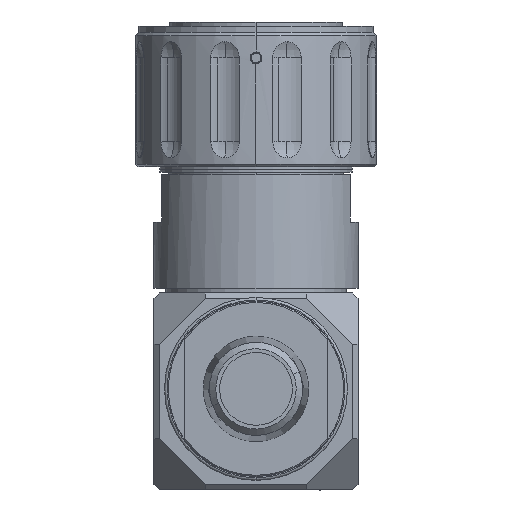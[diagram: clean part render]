
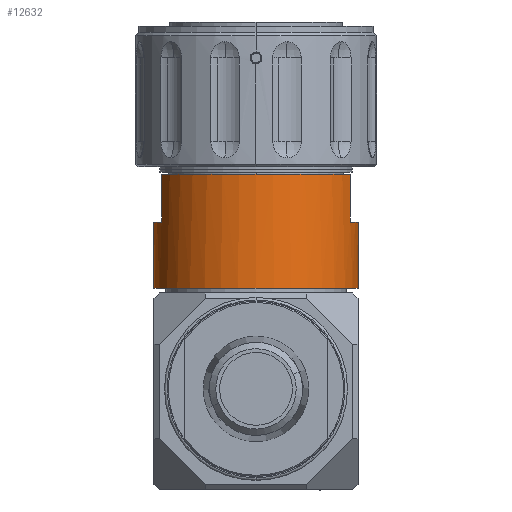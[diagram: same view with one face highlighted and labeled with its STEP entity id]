
A CAD part, front view. The second image highlights one B-rep face of the part: STEP entity #12632.
In plain terms, the highlighted cylindrical face has radius 20.447 mm (diameter 40.894 mm), a partial arc.
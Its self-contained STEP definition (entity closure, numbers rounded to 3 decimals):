
#65 = CARTESIAN_POINT ( 'NONE',  ( 18.796, -8.049, -30.328 ) ) ;
#496 = CARTESIAN_POINT ( 'NONE',  ( 0., 0., -30.328 ) ) ;
#1425 = VERTEX_POINT ( 'NONE', #8527 ) ;
#1447 = CYLINDRICAL_SURFACE ( 'NONE', #6996, 20.447 ) ;
#1982 = VERTEX_POINT ( 'NONE', #10337 ) ;
#2183 = CIRCLE ( 'NONE', #8501, 20.447 ) ;
#2210 = LINE ( 'NONE', #65, #9913 ) ;
#2232 = CIRCLE ( 'NONE', #11967, 20.447 ) ;
#2316 = VECTOR ( 'NONE', #9160, 1000. ) ;
#2331 = VERTEX_POINT ( 'NONE', #7808 ) ;
#2366 = CARTESIAN_POINT ( 'NONE',  ( 20.447, 0., -39.853 ) ) ;
#2547 = DIRECTION ( 'NONE',  ( 0., 0., -1. ) ) ;
#2822 = EDGE_CURVE ( 'NONE', #2331, #1982, #8724, .T. ) ;
#2977 = CARTESIAN_POINT ( 'NONE',  ( 0., 0., -39.853 ) ) ;
#3019 = DIRECTION ( 'NONE',  ( 0., 0., -1. ) ) ;
#3074 = CARTESIAN_POINT ( 'NONE',  ( -20.447, 0., -39.853 ) ) ;
#3502 = VERTEX_POINT ( 'NONE', #6114 ) ;
#3522 = ORIENTED_EDGE ( 'NONE', *, *, #10262, .T. ) ;
#3613 = CARTESIAN_POINT ( 'NONE',  ( 20.447, 0., -30.328 ) ) ;
#3876 = ORIENTED_EDGE ( 'NONE', *, *, #5257, .F. ) ;
#4098 = VERTEX_POINT ( 'NONE', #8161 ) ;
#4106 = ORIENTED_EDGE ( 'NONE', *, *, #2822, .T. ) ;
#4163 = DIRECTION ( 'NONE',  ( 0., 0., -1. ) ) ;
#4473 = EDGE_CURVE ( 'NONE', #1425, #3502, #11893, .T. ) ;
#4754 = ORIENTED_EDGE ( 'NONE', *, *, #7765, .F. ) ;
#4839 = LINE ( 'NONE', #12161, #2316 ) ;
#5008 = VECTOR ( 'NONE', #4163, 1000. ) ;
#5257 = EDGE_CURVE ( 'NONE', #4098, #12522, #2183, .T. ) ;
#5624 = ORIENTED_EDGE ( 'NONE', *, *, #12619, .F. ) ;
#5969 = CARTESIAN_POINT ( 'NONE',  ( 0., 0., -39.853 ) ) ;
#6114 = CARTESIAN_POINT ( 'NONE',  ( -20.447, 0., -53.01 ) ) ;
#6463 = AXIS2_PLACEMENT_3D ( 'NONE', #14052, #6742, #13046 ) ;
#6559 = CARTESIAN_POINT ( 'NONE',  ( -18.796, -8.049, -39.853 ) ) ;
#6644 = VERTEX_POINT ( 'NONE', #3074 ) ;
#6682 = VERTEX_POINT ( 'NONE', #6559 ) ;
#6742 = DIRECTION ( 'NONE',  ( 0., 0., -1. ) ) ;
#6996 = AXIS2_PLACEMENT_3D ( 'NONE', #496, #13502, #12491 ) ;
#7152 = ORIENTED_EDGE ( 'NONE', *, *, #7317, .F. ) ;
#7317 = EDGE_CURVE ( 'NONE', #12522, #1425, #11188, .T. ) ;
#7486 = CARTESIAN_POINT ( 'NONE',  ( 0., 0., -53.01 ) ) ;
#7765 = EDGE_CURVE ( 'NONE', #2331, #4098, #2210, .T. ) ;
#7808 = CARTESIAN_POINT ( 'NONE',  ( 18.796, -8.049, -30.328 ) ) ;
#8161 = CARTESIAN_POINT ( 'NONE',  ( 18.796, -8.049, -39.853 ) ) ;
#8291 = DIRECTION ( 'NONE',  ( 0., 0., 1. ) ) ;
#8412 = LINE ( 'NONE', #11684, #5008 ) ;
#8415 = ORIENTED_EDGE ( 'NONE', *, *, #9737, .F. ) ;
#8501 = AXIS2_PLACEMENT_3D ( 'NONE', #2977, #8291, #10687 ) ;
#8527 = CARTESIAN_POINT ( 'NONE',  ( 20.447, 0., -53.01 ) ) ;
#8724 = CIRCLE ( 'NONE', #6463, 20.447 ) ;
#9015 = VECTOR ( 'NONE', #2547, 1000. ) ;
#9152 = FACE_OUTER_BOUND ( 'NONE', #11696, .T. ) ;
#9160 = DIRECTION ( 'NONE',  ( 0., 0., 1. ) ) ;
#9737 = EDGE_CURVE ( 'NONE', #6682, #1982, #4839, .T. ) ;
#9775 = DIRECTION ( 'NONE',  ( 0., 0., -1. ) ) ;
#9913 = VECTOR ( 'NONE', #9775, 1000. ) ;
#10076 = DIRECTION ( 'NONE',  ( 0., 0., 1. ) ) ;
#10262 = EDGE_CURVE ( 'NONE', #6644, #3502, #8412, .T. ) ;
#10337 = CARTESIAN_POINT ( 'NONE',  ( -18.796, -8.049, -30.328 ) ) ;
#10687 = DIRECTION ( 'NONE',  ( 1., 0., 0. ) ) ;
#10727 = ORIENTED_EDGE ( 'NONE', *, *, #4473, .F. ) ;
#10988 = AXIS2_PLACEMENT_3D ( 'NONE', #7486, #3019, #11805 ) ;
#11188 = LINE ( 'NONE', #3613, #9015 ) ;
#11684 = CARTESIAN_POINT ( 'NONE',  ( -20.447, 0., -30.328 ) ) ;
#11696 = EDGE_LOOP ( 'NONE', ( #5624, #3522, #10727, #7152, #3876, #4754, #4106, #8415 ) ) ;
#11805 = DIRECTION ( 'NONE',  ( 1., 0., 0. ) ) ;
#11893 = CIRCLE ( 'NONE', #10988, 20.447 ) ;
#11967 = AXIS2_PLACEMENT_3D ( 'NONE', #5969, #10076, #13570 ) ;
#12161 = CARTESIAN_POINT ( 'NONE',  ( -18.796, -8.049, -30.328 ) ) ;
#12491 = DIRECTION ( 'NONE',  ( 1., 0., 0. ) ) ;
#12522 = VERTEX_POINT ( 'NONE', #2366 ) ;
#12619 = EDGE_CURVE ( 'NONE', #6644, #6682, #2232, .T. ) ;
#12632 = ADVANCED_FACE ( 'NONE', ( #9152 ), #1447, .T. ) ;
#13046 = DIRECTION ( 'NONE',  ( 1., 0., 0. ) ) ;
#13502 = DIRECTION ( 'NONE',  ( 0., 0., -1. ) ) ;
#13570 = DIRECTION ( 'NONE',  ( 0., 1., 0. ) ) ;
#14052 = CARTESIAN_POINT ( 'NONE',  ( 0., 0., -30.328 ) ) ;
